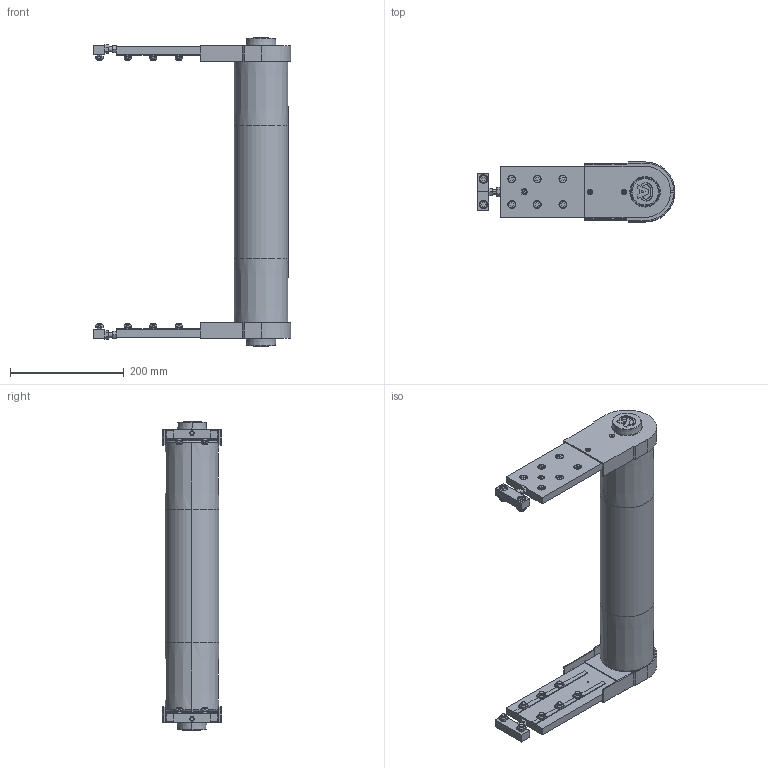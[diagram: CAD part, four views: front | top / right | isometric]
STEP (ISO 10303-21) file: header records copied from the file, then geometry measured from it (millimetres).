
FILE_DESCRIPTION (( 'STEP AP203' ), '1' );
FILE_NAME ('084.095.KI.450.STEP', '2019-07-12T09:59:09', ( 'Localadmin' ), ( 'Microsoft' ), 'SwSTEP 2.0', 'SolidWorks 2018', '' );
FILE_SCHEMA (( 'CONFIG_CONTROL_DESIGN' ));
Length unit declared in the file: millimetre
Products named in the file (11): 084.810.003; 084.802.019_084.802.019; 084.803.003; 084.803.005-1; Circlip DIN 471 - 30 x 1.5_Circlip DIN 471 - 30 x 1.5; 084.301.000 VITI ALUSIC_084.301.003; 084.095.KI.450; 084.302.000 DADI ALUSIC 13x13_084.302.004; 084.816.113_084.816.107<A macchina>; 084.812.003; 084.808.002_084.808.002
Assembly tree (47 placements, depth 2):
  084.095.KI.450
    084.803.005-1  x2
    084.301.000 VITI ALUSIC_084.301.003  x16
    084.302.000 DADI ALUSIC 13x13_084.302.004  x16
    084.816.113_084.816.107<A macchina>
    084.812.003  x2
    084.808.002_084.808.002  x2
    084.810.003  x2
    084.802.019_084.802.019  x2
    084.803.003  x2
    Circlip DIN 471 - 30 x 1.5_Circlip DIN 471 - 30 x 1.5  x2
Bounding box: 348.5 x 105 x 543 mm (x, y, z)
Volume: 1914680.8 mm3; surface area: 834780.7 mm2
Topology: 53 solids, 55 shells, 1602 faces, 4134 edges, 2708 vertices
Faces by surface type: plane 967, cylinder 371, torus 116, cone 92, bspline 48, sphere 8
Entity records: 21892 total; most frequent: CARTESIAN_POINT 3923, DIRECTION 3331, ORIENTED_EDGE 3270, EDGE_CURVE 1635, AXIS2_PLACEMENT_3D 1129, VERTEX_POINT 1077, LINE 1073, VECTOR 1073
